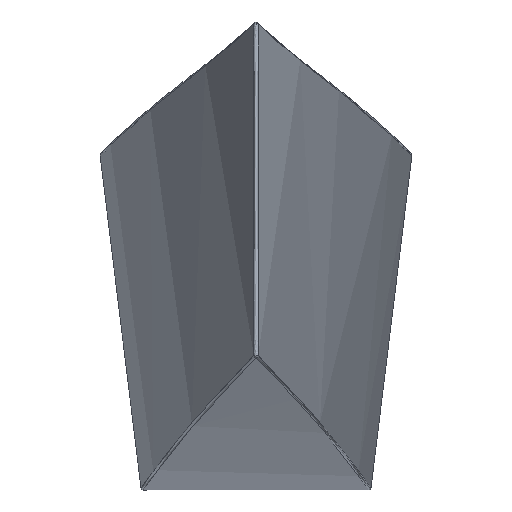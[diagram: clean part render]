
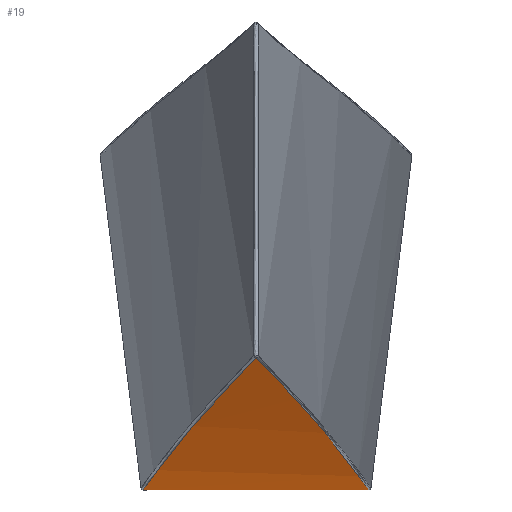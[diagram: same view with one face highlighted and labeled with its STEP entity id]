
A CAD part, left-side view. The second image highlights one B-rep face of the part: STEP entity #19.
In plain terms, the highlighted free-form (B-spline) face has degree [2, 1] with [3, 2] control points.
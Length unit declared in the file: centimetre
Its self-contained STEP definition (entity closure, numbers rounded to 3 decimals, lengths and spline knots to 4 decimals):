
#19=ADVANCED_FACE($,(#36),#179,.T.);
#36=FACE_OUTER_BOUND($,#53,.T.);
#53=EDGE_LOOP($,(#82,#83));
#82=ORIENTED_EDGE($,*,*,#144,.T.);
#83=ORIENTED_EDGE($,*,*,#145,.T.);
#144=EDGE_CURVE($,#173,#158,#213,.T.);
#145=EDGE_CURVE($,#158,#173,#214,.T.);
#158=VERTEX_POINT($,#1763);
#173=VERTEX_POINT($,#1778);
#179=(
BOUNDED_SURFACE()
B_SPLINE_SURFACE(2,1,((#1044,#1045),(#1046,#1047),(#1048,#1049)),.UNSPECIFIED.,
.F.,.F.,.F.)
B_SPLINE_SURFACE_WITH_KNOTS((3,3),(2,2),(735.8863,800.3525),
(0.4687,5.7792),.UNSPECIFIED.)
GEOMETRIC_REPRESENTATION_ITEM()
RATIONAL_B_SPLINE_SURFACE(((1.,1.),(0.981,0.981),
(1.,1.)))
REPRESENTATION_ITEM($)
SURFACE()
);
#213=B_SPLINE_CURVE_WITH_KNOTS($,3,(#686,#687,#688,#689,#690,#691,#692,#693,
#694,#695,#696,#697,#698,#699,#700,#701,#702,#703,#704,#705,#706,#707,#708,
#709,#710,#711,#712,#713,#714,#715,#716,#717,#718,#719),.UNSPECIFIED.,.F.,
.F.,(4,2,2,2,2,2,2,2,2,2,2,2,2,2,2,2,4),(0.,0.0397,0.0794,
0.1192,0.159,0.1987,0.2384,
0.2781,0.3178,0.3576,0.3974,
0.4371,0.4768,0.5166,0.5564,0.5961,
0.6359),.UNSPECIFIED.);
#214=B_SPLINE_CURVE_WITH_KNOTS($,3,(#720,#721,#722,#723,#724,#725,#726,#727,
#728,#729,#730,#731,#732,#733,#734,#735,#736,#737,#738,#739,#740,#741,#742,
#743,#744,#745,#746,#747,#748,#749,#750,#751,#752,#753),.UNSPECIFIED.,.F.,
.F.,(4,2,2,2,2,2,2,2,2,2,2,2,2,2,2,2,4),(0.,0.0397,0.0794,
0.1192,0.159,0.1987,0.2384,
0.2781,0.3178,0.3576,0.3974,
0.4371,0.4768,0.5166,0.5564,
0.5961,0.6359),.UNSPECIFIED.);
#686=CARTESIAN_POINT($,(-31.4035,-10.9337,3.0395));
#687=CARTESIAN_POINT($,(-30.1316,-10.6807,2.7897));
#688=CARTESIAN_POINT($,(-28.8488,-10.4519,2.5537));
#689=CARTESIAN_POINT($,(-26.2711,-10.0379,2.1115));
#690=CARTESIAN_POINT($,(-24.9762,-9.8528,1.9053));
#691=CARTESIAN_POINT($,(-22.3814,-9.5208,1.5243));
#692=CARTESIAN_POINT($,(-21.0786,-9.3736,1.349));
#693=CARTESIAN_POINT($,(-18.4647,-9.1124,1.0296));
#694=CARTESIAN_POINT($,(-17.1546,-8.9985,0.8856));
#695=CARTESIAN_POINT($,(-14.532,-8.8001,0.6295));
#696=CARTESIAN_POINT($,(-13.2144,-8.7153,0.5169));
#697=CARTESIAN_POINT($,(-10.5752,-8.5721,0.3238));
#698=CARTESIAN_POINT($,(-9.2537,-8.5137,0.2433));
#699=CARTESIAN_POINT($,(-6.6198,-8.4215,0.1149));
#700=CARTESIAN_POINT($,(-5.2955,-8.3873,0.0664));
#701=CARTESIAN_POINT($,(-2.6455,-8.3418,0.0018));
#702=CARTESIAN_POINT($,(-1.3201,-8.3306,-0.0142));
#703=CARTESIAN_POINT($,(1.3217,-8.3305,-0.0143));
#704=CARTESIAN_POINT($,(2.644,-8.3418,0.0018));
#705=CARTESIAN_POINT($,(5.288,-8.3871,0.0662));
#706=CARTESIAN_POINT($,(6.6091,-8.4212,0.1144));
#707=CARTESIAN_POINT($,(9.2471,-8.5135,0.2429));
#708=CARTESIAN_POINT($,(10.5694,-8.5718,0.3234));
#709=CARTESIAN_POINT($,(13.2102,-8.715,0.5165));
#710=CARTESIAN_POINT($,(14.5286,-8.7999,0.6292));
#711=CARTESIAN_POINT($,(17.1512,-8.9982,0.8852));
#712=CARTESIAN_POINT($,(18.4605,-9.1121,1.0291));
#713=CARTESIAN_POINT($,(21.0729,-9.373,1.3483));
#714=CARTESIAN_POINT($,(22.3749,-9.52,1.5234));
#715=CARTESIAN_POINT($,(24.9702,-9.8519,1.9044));
#716=CARTESIAN_POINT($,(26.2663,-10.0372,2.1107));
#717=CARTESIAN_POINT($,(28.8464,-10.4515,2.5532));
#718=CARTESIAN_POINT($,(30.1304,-10.6805,2.7895));
#719=CARTESIAN_POINT($,(31.4035,-10.9337,3.0395));
#720=CARTESIAN_POINT($,(31.4035,-10.9337,3.0395));
#721=CARTESIAN_POINT($,(30.1316,-11.1868,2.7897));
#722=CARTESIAN_POINT($,(28.8488,-11.4155,2.5537));
#723=CARTESIAN_POINT($,(26.2711,-11.8295,2.1115));
#724=CARTESIAN_POINT($,(24.9762,-12.0147,1.9053));
#725=CARTESIAN_POINT($,(22.3814,-12.3467,1.5243));
#726=CARTESIAN_POINT($,(21.0786,-12.4938,1.349));
#727=CARTESIAN_POINT($,(18.4647,-12.755,1.0296));
#728=CARTESIAN_POINT($,(17.1546,-12.869,0.8856));
#729=CARTESIAN_POINT($,(14.532,-13.0674,0.6295));
#730=CARTESIAN_POINT($,(13.2144,-13.1522,0.5169));
#731=CARTESIAN_POINT($,(10.5752,-13.2954,0.3238));
#732=CARTESIAN_POINT($,(9.2537,-13.3537,0.2433));
#733=CARTESIAN_POINT($,(6.6198,-13.4459,0.1149));
#734=CARTESIAN_POINT($,(5.2955,-13.4802,0.0664));
#735=CARTESIAN_POINT($,(2.6455,-13.5257,0.0018));
#736=CARTESIAN_POINT($,(1.3201,-13.5369,-0.0142));
#737=CARTESIAN_POINT($,(-1.3217,-13.5369,-0.0143));
#738=CARTESIAN_POINT($,(-2.644,-13.5257,0.0018));
#739=CARTESIAN_POINT($,(-5.288,-13.4803,0.0662));
#740=CARTESIAN_POINT($,(-6.6091,-13.4462,0.1144));
#741=CARTESIAN_POINT($,(-9.2471,-13.354,0.2429));
#742=CARTESIAN_POINT($,(-10.5694,-13.2956,0.3234));
#743=CARTESIAN_POINT($,(-13.2102,-13.1524,0.5165));
#744=CARTESIAN_POINT($,(-14.5286,-13.0676,0.6292));
#745=CARTESIAN_POINT($,(-17.1512,-12.8693,0.8852));
#746=CARTESIAN_POINT($,(-18.4605,-12.7554,1.0291));
#747=CARTESIAN_POINT($,(-21.0729,-12.4944,1.3483));
#748=CARTESIAN_POINT($,(-22.3749,-12.3474,1.5234));
#749=CARTESIAN_POINT($,(-24.9702,-12.0155,1.9044));
#750=CARTESIAN_POINT($,(-26.2663,-11.8302,2.1107));
#751=CARTESIAN_POINT($,(-28.8464,-11.416,2.5532));
#752=CARTESIAN_POINT($,(-30.1304,-11.187,2.7895));
#753=CARTESIAN_POINT($,(-31.4035,-10.9337,3.0395));
#1044=CARTESIAN_POINT($,(-32.0235,-8.2785,3.1624));
#1045=CARTESIAN_POINT($,(-32.0235,-13.589,3.1624));
#1046=CARTESIAN_POINT($,(0.,-8.2785,-3.2541));
#1047=CARTESIAN_POINT($,(0.,-13.589,-3.2541));
#1048=CARTESIAN_POINT($,(32.0235,-8.2785,3.1624));
#1049=CARTESIAN_POINT($,(32.0235,-13.589,3.1624));
#1763=CARTESIAN_POINT($,(31.4035,-10.9337,3.0395));
#1778=CARTESIAN_POINT($,(-31.4035,-10.9337,3.0395));
